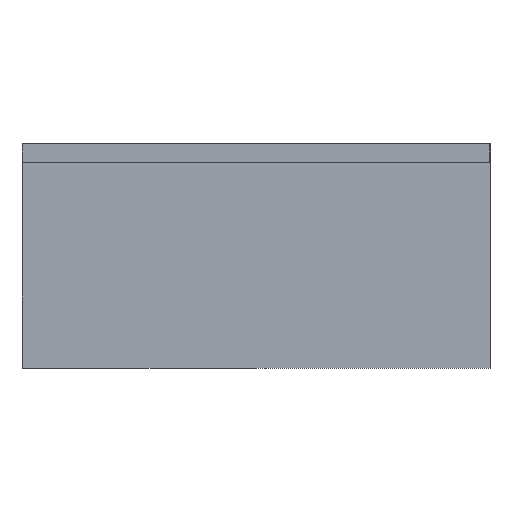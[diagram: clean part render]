
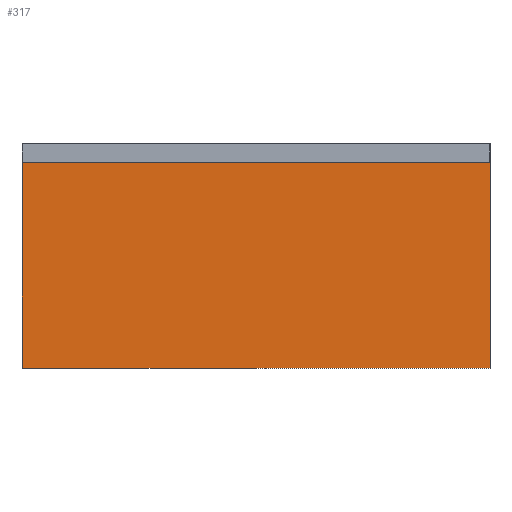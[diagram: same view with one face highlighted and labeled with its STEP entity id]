
A CAD part, left-side view. The second image highlights one B-rep face of the part: STEP entity #317.
In plain terms, the highlighted planar face has unit normal (-1, 0, 0).
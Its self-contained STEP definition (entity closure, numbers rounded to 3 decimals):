
#29=PLANE('',#351);
#45=FACE_OUTER_BOUND('',#64,.T.);
#64=EDGE_LOOP('',(#270,#271,#272,#273));
#100=LINE('',#509,#138);
#102=LINE('',#513,#140);
#103=LINE('',#515,#141);
#104=LINE('',#516,#142);
#138=VECTOR('',#420,25.4);
#140=VECTOR('',#424,25.4);
#141=VECTOR('',#425,25.4);
#142=VECTOR('',#426,25.4);
#173=VERTEX_POINT('',#506);
#174=VERTEX_POINT('',#508);
#175=VERTEX_POINT('',#512);
#176=VERTEX_POINT('',#514);
#212=EDGE_CURVE('',#174,#173,#100,.T.);
#214=EDGE_CURVE('',#173,#175,#102,.T.);
#215=EDGE_CURVE('',#176,#175,#103,.T.);
#216=EDGE_CURVE('',#176,#174,#104,.T.);
#270=ORIENTED_EDGE('',*,*,#214,.T.);
#271=ORIENTED_EDGE('',*,*,#215,.F.);
#272=ORIENTED_EDGE('',*,*,#216,.T.);
#273=ORIENTED_EDGE('',*,*,#212,.T.);
#317=ADVANCED_FACE('',(#45),#29,.T.);
#351=AXIS2_PLACEMENT_3D('',#511,#422,#423);
#420=DIRECTION('',(0.,-1.,0.));
#422=DIRECTION('center_axis',(-1.,0.,0.));
#423=DIRECTION('ref_axis',(0.,0.,1.));
#424=DIRECTION('',(0.,0.,1.));
#425=DIRECTION('',(0.,-1.,0.));
#426=DIRECTION('',(0.,0.,-1.));
#506=CARTESIAN_POINT('',(1784.52,-1270.,-155.376));
#508=CARTESIAN_POINT('',(1784.52,0.,-155.376));
#509=CARTESIAN_POINT('',(1784.52,0.,-155.376));
#511=CARTESIAN_POINT('Origin',(1784.52,0.,-155.376));
#512=CARTESIAN_POINT('',(1784.52,-1270.,403.424));
#513=CARTESIAN_POINT('',(1784.52,-1270.,403.424));
#514=CARTESIAN_POINT('',(1784.52,0.,403.424));
#515=CARTESIAN_POINT('',(1784.52,0.,403.424));
#516=CARTESIAN_POINT('',(1784.52,0.,403.424));
